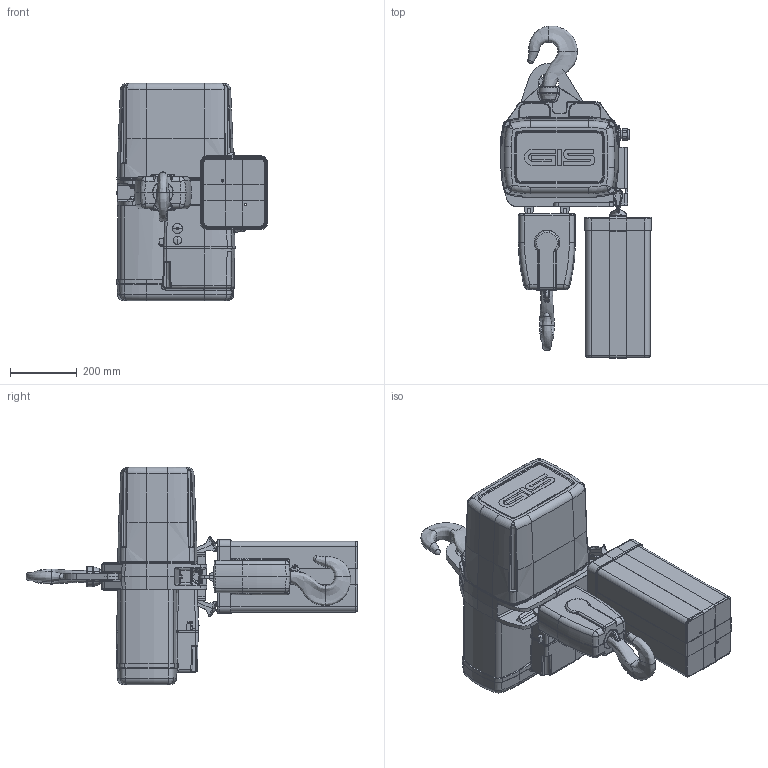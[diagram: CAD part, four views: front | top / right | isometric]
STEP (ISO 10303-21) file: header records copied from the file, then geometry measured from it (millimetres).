
FILE_DESCRIPTION(/* description */ (''),/* implementation_level */ '2;1');
FILE_NAME(/* name */ 'C:\Users\gissfl\Desktop\zwischenablage\9521.9201.L GP 2500 2str.stp',/* time_stamp */ '2020-08-10T09:59:37+02:00',/* author */ ('gissfl'),/* organization */ (''),/* preprocessor_version */ 'ST-DEVELOPER v17.2',/* originating_system */ 'Autodesk Inventor 2019',/* authorisation */ '');
FILE_SCHEMA (('AUTOMOTIVE_DESIGN { 1 0 10303 214 3 1 1 }'));
Products named in the file (1): 9521.9201.L
Bounding box: 451.21 x 991.68 x 649.5 mm (x, y, z)
Volume: 54183659.5 mm3; surface area: 2323695.1 mm2
Topology: 5 solids, 17 shells, 1911 faces, 4874 edges, 2920 vertices
Faces by surface type: cylinder 579, plane 520, bspline 480, torus 194, cone 115, sphere 23
Full cylindrical faces by diameter (mm): 3.3 x2, 6.2 x1, 7 x2, 7.5 x3, 25 x2, 30 x1, 62 x1, 156 x1
Entity records: 87514 total; most frequent: CARTESIAN_POINT 41496, ORIENTED_EDGE 9590, DIRECTION 8900, EDGE_CURVE 4795, AXIS2_PLACEMENT_3D 3477, VERTEX_POINT 2919, LINE 1946, VECTOR 1946
